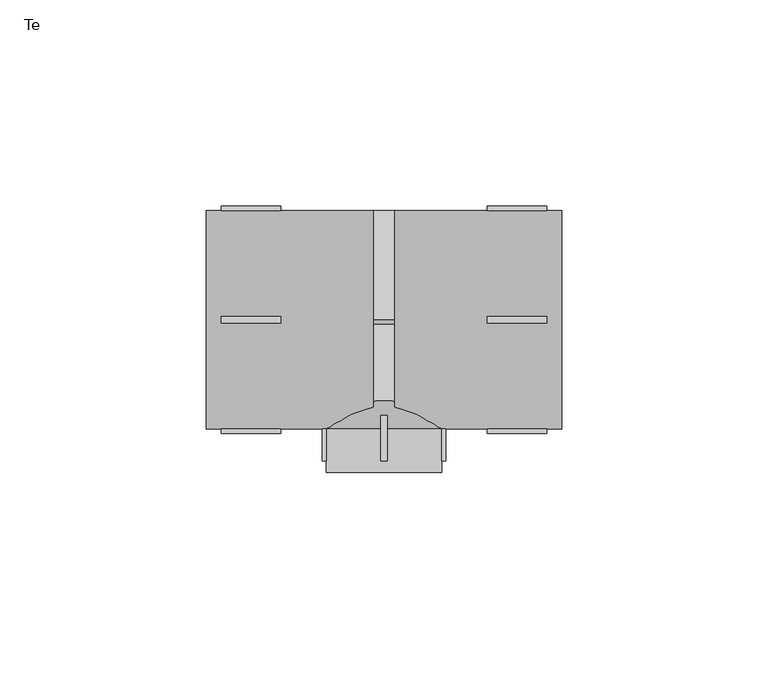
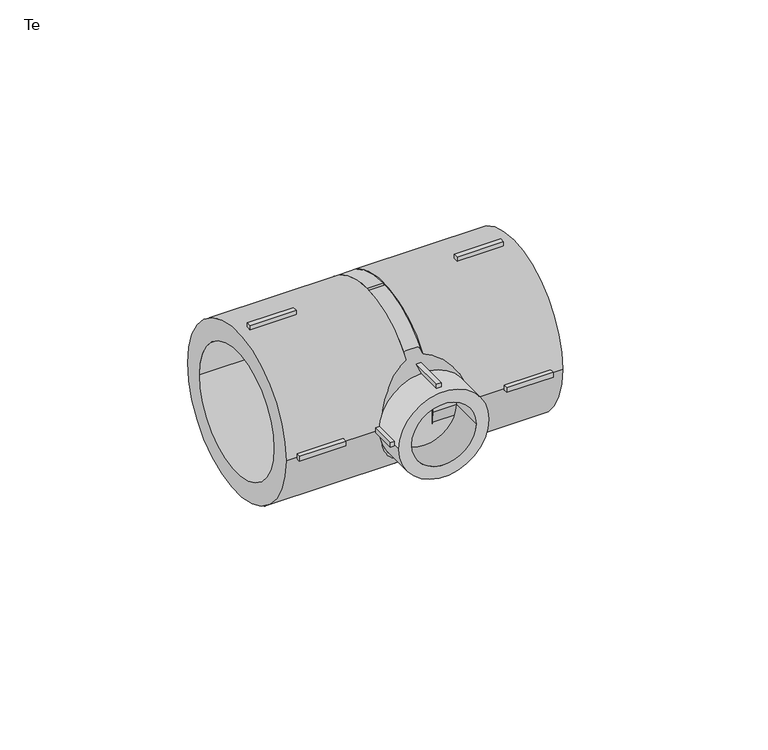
"""IFC4 building model written with IfcOpenShell, lengths in millimetres: pipe fitting geometry, EGB_VASEN_ PPR_Te WXR300_Te reducida WXR310 : Te."""

import ifcopenshell
import ifcopenshell.guid

model = None  # the IFC model being written
_history = None  # IfcOwnerHistory: only IFC2X3 demands one
_inside = {}  # id of a spatial element -> (the spatial element, [elements in it])
_under = {}  # id of a project, library or spatial element -> (it, [spatial elements below it])
_declared = {}  # id of a project -> (the project, [libraries it declares])
_typed = {}  # id of a type object -> (the type object, [elements of that type])
_made_of = {}  # id of a material, layer set ... -> (it, [elements and type objects made of it])


def new_model(schema):
    """Start an empty IFC model of exactly this schema.

    Asked for "IFC4X3", IfcOpenShell would pick the latest addendum, in which some entities
    have other attributes; the version numbers below select the first issue.
    IFC2X3 requires an IfcOwnerHistory on every rooted entity: one is made here for all.
    """
    global model, _history
    if schema == "IFC4X3":
        model = ifcopenshell.file(schema_version=(4, 3, 0, 0))
    else:
        model = ifcopenshell.file(schema=schema)
    _inside.clear()
    _under.clear()
    _declared.clear()
    _typed.clear()
    _made_of.clear()
    _history = None
    if model.schema == "IFC2X3":
        org = make("IfcOrganization", Name="unknown")
        user = make(
            "IfcPersonAndOrganization",
            ThePerson=make("IfcPerson", FamilyName="unknown"),
            TheOrganization=org,
        )
        app = make(
            "IfcApplication",
            ApplicationDeveloper=org,
            Version="unknown",
            ApplicationFullName="unknown",
            ApplicationIdentifier="unknown",
        )
        _history = make(
            "IfcOwnerHistory",
            OwningUser=user,
            OwningApplication=app,
            ChangeAction="ADDED",
            CreationDate=0,
        )
    return model


def make(cls, **values):
    """One entity of the class cls with the attributes given. An attribute that is None is left unset."""
    return model.create_entity(
        cls, **{name: value for name, value in values.items() if value is not None}
    )


def rooted(cls, **values):
    """An entity with a GlobalId (a new one), such as an element, a storey or a relation."""
    return make(cls, GlobalId=ifcopenshell.guid.new(), OwnerHistory=_history, **values)


def si_unit(unit_type, name, prefix=None):
    """IfcSIUnit, for example si_unit("LENGTHUNIT", "METRE", prefix="MILLI")."""
    return make("IfcSIUnit", UnitType=unit_type, Prefix=prefix, Name=name)


def assignment(units):
    """IfcUnitAssignment: the units of a project."""
    return None if units is None else make("IfcUnitAssignment", Units=units)


def point(xyz):
    """IfcCartesianPoint."""
    return None if xyz is None else make("IfcCartesianPoint", Coordinates=xyz)


def direction(xyz):
    """IfcDirection."""
    return None if xyz is None else make("IfcDirection", DirectionRatios=xyz)


def frame(location, z_axis=None, x_axis=None):
    """IfcAxis2Placement3D, a coordinate frame: its origin and axes. An axis left out is left unset."""
    return make(
        "IfcAxis2Placement3D",
        Location=point(location),
        Axis=direction(z_axis),
        RefDirection=direction(x_axis),
    )


def frame_2d(location, x_axis=None):
    """IfcAxis2Placement2D, a coordinate frame in the plane: its origin and x axis."""
    return make(
        "IfcAxis2Placement2D", Location=point(location), RefDirection=direction(x_axis)
    )


def origin():
    """The frame at (0, 0, 0) with its axes left unset."""
    return frame((0.0, 0.0, 0.0))


def origin_2d():
    """The frame at (0, 0) in the plane with its x axis left unset."""
    return frame_2d((0.0, 0.0))


def place(relative_to, where):
    """IfcLocalPlacement: puts the frame where relative to a parent placement (None: the world)."""
    return make(
        "IfcLocalPlacement", PlacementRelTo=relative_to, RelativePlacement=where
    )


def context(
    kind, dimensions, precision=None, world=None, true_north=None, identifier=None
):
    """IfcGeometricRepresentationContext, for example the 3D "Model" context."""
    return make(
        "IfcGeometricRepresentationContext",
        ContextIdentifier=identifier,
        ContextType=kind,
        CoordinateSpaceDimension=dimensions,
        Precision=precision,
        WorldCoordinateSystem=world,
        TrueNorth=true_north,
    )


def project(units=None, contexts=None):
    """IfcProject with its units and contexts."""
    return rooted(
        "IfcProject",
        Name="project",
        RepresentationContexts=contexts,
        UnitsInContext=assignment(units),
    )


def spatial(cls, under=None, at=None, **own):
    """A site, building, storey or space (cls), placed at a placement, below another one or the project."""
    s = rooted(cls, ObjectPlacement=at, **own)
    if under is not None:
        _under.setdefault(under.id(), (under, []))[1].append(s)
    return s


def polyline(points):
    """IfcPolyline through the points."""
    return make("IfcPolyline", Points=[point(p) for p in points])


def circle_curve(where, radius):
    """IfcCircle in the frame where."""
    return make("IfcCircle", Position=where, Radius=radius)


def trimmed(basis, trim1, trim2, sense, master):
    """IfcTrimmedCurve: the piece of a basis curve between two trims."""
    return make(
        "IfcTrimmedCurve",
        BasisCurve=basis,
        Trim1=trim1,
        Trim2=trim2,
        SenseAgreement=sense,
        MasterRepresentation=master,
    )


def segment(curve, same_sense, transition):
    """IfcCompositeCurveSegment."""
    return make(
        "IfcCompositeCurveSegment",
        Transition=transition,
        SameSense=same_sense,
        ParentCurve=curve,
    )


def composite_curve(segments, self_intersect=None):
    """IfcCompositeCurve: segments joined end to end."""
    return make("IfcCompositeCurve", Segments=segments, SelfIntersect=self_intersect)


def outline(outer, holes=None, kind="AREA"):
    """IfcArbitraryClosedProfileDef: a profile drawn as a closed curve; with holes, ...WithVoids."""
    if holes is None:
        return make("IfcArbitraryClosedProfileDef", ProfileType=kind, OuterCurve=outer)
    return make(
        "IfcArbitraryProfileDefWithVoids",
        ProfileType=kind,
        OuterCurve=outer,
        InnerCurves=holes,
    )


def extrude(swept, where, along, depth):
    """IfcExtrudedAreaSolid: the profile swept, set in the frame where, extruded along a direction by depth."""
    return make(
        "IfcExtrudedAreaSolid",
        SweptArea=swept,
        Position=where,
        ExtrudedDirection=direction(along),
        Depth=depth,
    )


def shape(context_of_items, identifier, shape_type, items):
    """IfcShapeRepresentation: the items that make up one representation, for example the "Body"."""
    return make(
        "IfcShapeRepresentation",
        ContextOfItems=context_of_items,
        RepresentationIdentifier=identifier,
        RepresentationType=shape_type,
        Items=items,
    )


def source(mapping_origin, context_of_items, identifier, shape_type, items):
    """IfcRepresentationMap: a shape defined once, which mapped items show again and again."""
    return make(
        "IfcRepresentationMap",
        MappingOrigin=mapping_origin,
        MappedRepresentation=shape(context_of_items, identifier, shape_type, items),
    )


def transform(
    local_origin,
    x_axis=None,
    y_axis=None,
    z_axis=None,
    scale=None,
    scale2=None,
    scale3=None,
    uniform=True,
):
    """IfcCartesianTransformationOperator3D, or its non-uniform kind. x_axis, y_axis, z_axis: its Axis1, 2, 3."""
    if uniform:
        return make(
            "IfcCartesianTransformationOperator3D",
            Axis1=direction(x_axis),
            Axis2=direction(y_axis),
            LocalOrigin=point(local_origin),
            Scale=scale,
            Axis3=direction(z_axis),
        )
    return make(
        "IfcCartesianTransformationOperator3DnonUniform",
        Axis1=direction(x_axis),
        Axis2=direction(y_axis),
        LocalOrigin=point(local_origin),
        Scale=scale,
        Axis3=direction(z_axis),
        Scale2=scale2,
        Scale3=scale3,
    )


def mapped(mapping_source, mapping_target):
    """IfcMappedItem: shows the shape of a source again, moved by a transform."""
    return make(
        "IfcMappedItem", MappingSource=mapping_source, MappingTarget=mapping_target
    )


def made_of(thing, what):
    """Note that an element or type object is made of a material, layer set ...; save() writes the relation."""
    if what is not None:
        _made_of.setdefault(what.id(), (what, []))[1].append(thing)
    return thing


def element(
    cls,
    number,
    at=None,
    inside=None,
    cuts=None,
    type_object=None,
    material=None,
    context=None,
    identifier="Body",
    shape_type=None,
    held_by="IfcProductDefinitionShape",
    body=None,
    shapes=None,
    **own,
):
    """One element of the class cls, such as IfcWall. Its Tag is "e" and its number.

    at: its placement. inside: the storey or other place that contains it. cuts: it is an
    opening in that element (IfcRelVoidsElement). A single representation is given by context,
    identifier, shape_type and body (its items); several are given by shapes. held_by: the class
    of the entity that holds the representations. save() writes the other relations.
    """
    e = rooted(cls, Tag="e%d" % number, ObjectPlacement=at, **own)
    if body is not None:
        shapes = [shape(context, identifier, shape_type, body)]
    if shapes is not None:
        e.Representation = make(held_by, Representations=shapes)
    if inside is not None:
        _inside.setdefault(inside.id(), (inside, []))[1].append(e)
    if cuts is not None:
        rooted(
            "IfcRelVoidsElement", RelatingBuildingElement=cuts, RelatedOpeningElement=e
        )
    if type_object is not None:
        _typed.setdefault(type_object.id(), (type_object, []))[1].append(e)
    return made_of(e, material)


def aggregate(whole, parts):
    """IfcRelAggregates: a whole, such as a stair, and the parts it consists of."""
    return rooted("IfcRelAggregates", RelatingObject=whole, RelatedObjects=parts)


def save(model, path):
    """Write the relations noted so far, then the file.

    IfcRelAggregates (storeys below a building ...), IfcRelContainedInSpatialStructure (elements
    in a storey), IfcRelDefinesByType, IfcRelAssociatesMaterial and IfcRelDeclares: one each for
    every whole, place, type object, material and project.
    """
    for whole, parts in _under.values():
        aggregate(whole, parts)
    for where, things in _inside.values():
        rooted(
            "IfcRelContainedInSpatialStructure",
            RelatedElements=things,
            RelatingStructure=where,
        )
    for kind, things in _typed.values():
        rooted("IfcRelDefinesByType", RelatedObjects=things, RelatingType=kind)
    for what, things in _made_of.values():
        rooted("IfcRelAssociatesMaterial", RelatedObjects=things, RelatingMaterial=what)
    for by, libraries in _declared.values():
        rooted("IfcRelDeclares", RelatingContext=by, RelatedDefinitions=libraries)
    model.write(path)


def plane_surface(at):
    """IfcPlane: the flat surface through the origin of the frame at, square to its z axis."""
    return make("IfcPlane", Position=at)


def revolved_surface(curve, axis_point, axis_direction):
    """IfcSurfaceOfRevolution: the curve turned about the line through axis_point along axis_direction."""
    return make(
        "IfcSurfaceOfRevolution",
        SweptCurve=make("IfcArbitraryOpenProfileDef", ProfileType="CURVE", Curve=curve),
        AxisPosition=make("IfcAxis1Placement", Location=point(axis_point), Axis=direction(axis_direction)),
    )


def advanced_brep(points, edges, surfaces, faces):
    """IfcAdvancedBrep: a solid bounded by faces that lie on surfaces and meet in shared edges.

    An edge is (start, end): straight between two places in points (the first is 0);
    or (start, end, curve); or (start, end, curve, False) where it runs against its curve.
    A face is (place in surfaces, loops), or (place, loops, False) where it looks against
    its surface's normal. A loop lists edges by number (the first is 1), with a minus sign
    where the edge is run from its end to its start. The first loop is the outer one.
    """
    corners = [point(p) for p in points]
    vertices = [make("IfcVertexPoint", VertexGeometry=c) for c in corners]
    made = []
    for start, end, *more in edges:
        made.append(
            make(
                "IfcEdgeCurve",
                EdgeStart=vertices[start],
                EdgeEnd=vertices[end],
                EdgeGeometry=more[0] if more else make("IfcPolyline", Points=[corners[start], corners[end]]),
                SameSense=more[1] if len(more) > 1 else True,
            )
        )
    hull = []
    for where, loops, *sense in faces:
        bounds = []
        for j, loop in enumerate(loops):
            ring = [make("IfcOrientedEdge", EdgeElement=made[abs(k) - 1], Orientation=k > 0) for k in loop]
            bounds.append(
                make(
                    "IfcFaceOuterBound" if j == 0 else "IfcFaceBound",
                    Bound=make("IfcEdgeLoop", EdgeList=ring),
                    Orientation=True,
                )
            )
        hull.append(make("IfcAdvancedFace", Bounds=bounds, FaceSurface=surfaces[where], SameSense=sense[0] if sense else True))
    return make("IfcAdvancedBrep", Outer=make("IfcClosedShell", CfsFaces=hull))


def te_f539bd72(model_context):
    return source(origin(), model_context, "Body", "SolidModel", [
        extrude(outline(polyline([(-0.75, -23.0), (0.75, -23.0), (0.75, -34.2), (-0.75, -34.2), (-0.75, -23.0)])), frame((0.0, 0.0, 13.0), z_axis=(0.0, 0.0, 1.0), x_axis=(1.0, 0.0, 0.0)), (0.0, 0.0, 1.0), 2.0),
        extrude(outline(polyline([(-0.75, -23.0), (0.75, -23.0), (0.75, -34.2), (-0.75, -34.2), (-0.75, -23.0)])), frame((0.0, 0.0, -15.0), z_axis=(0.0, 0.0, 1.0), x_axis=(1.0, 0.0, 0.0)), (0.0, 0.0, 1.0), 2.0),
        extrude(outline(polyline([(13.0, -23.0), (15.0, -23.0), (15.0, -34.2), (13.0, -34.2), (13.0, -23.0)])), frame((0.0, 0.0, -0.75), z_axis=(0.0, 0.0, 1.0), x_axis=(1.0, 0.0, 0.0)), (0.0, 0.0, 1.0), 1.5),
        extrude(outline(polyline([(-15.0, -23.0), (-13.0, -23.0), (-13.0, -34.2), (-15.0, -34.2), (-15.0, -23.0)])), frame((0.0, 0.0, -0.75), z_axis=(0.0, 0.0, 1.0), x_axis=(1.0, 0.0, 0.0)), (0.0, 0.0, 1.0), 1.5),
        extrude(outline(polyline([(25.0, -0.75), (25.0, 0.75), (39.4, 0.75), (39.4, -0.75), (25.0, -0.75)])), frame((0.0, 0.0, 25.5), z_axis=(0.0, 0.0, 1.0), x_axis=(1.0, 0.0, 0.0)), (0.0, 0.0, 1.0), 2.0),
        extrude(outline(polyline([(25.0, -0.75), (25.0, 0.75), (39.4, 0.75), (39.4, -0.75), (25.0, -0.75)])), frame((0.0, 0.0, -27.5), z_axis=(0.0, 0.0, 1.0), x_axis=(1.0, 0.0, 0.0)), (0.0, 0.0, 1.0), 2.0),
        extrude(outline(polyline([(25.0, 25.5), (25.0, 27.5), (39.4, 27.5), (39.4, 25.5), (25.0, 25.5)])), frame((0.0, 0.0, -0.75), z_axis=(0.0, 0.0, 1.0), x_axis=(1.0, 0.0, 0.0)), (0.0, 0.0, 1.0), 1.5),
        extrude(outline(polyline([(25.0, -27.5), (25.0, -25.5), (39.4, -25.5), (39.4, -27.5), (25.0, -27.5)])), frame((0.0, 0.0, -0.75), z_axis=(0.0, 0.0, 1.0), x_axis=(1.0, 0.0, 0.0)), (0.0, 0.0, 1.0), 1.5),
        extrude(outline(polyline([(-25.0, 0.75), (-25.0, -0.75), (-39.4, -0.75), (-39.4, 0.75), (-25.0, 0.75)])), frame((0.0, 0.0, 25.5), z_axis=(0.0, 0.0, 1.0), x_axis=(1.0, 0.0, 0.0)), (0.0, 0.0, 1.0), 2.0),
        extrude(outline(polyline([(-25.0, 0.75), (-25.0, -0.75), (-39.4, -0.75), (-39.4, 0.75), (-25.0, 0.75)])), frame((0.0, 0.0, -27.5), z_axis=(0.0, 0.0, 1.0), x_axis=(1.0, 0.0, 0.0)), (0.0, 0.0, 1.0), 2.0),
        extrude(outline(polyline([(-25.0, 27.5), (-25.0, 25.5), (-39.4, 25.5), (-39.4, 27.5), (-25.0, 27.5)])), frame((0.0, 0.0, -0.75), z_axis=(0.0, 0.0, 1.0), x_axis=(1.0, 0.0, 0.0)), (0.0, 0.0, 1.0), 1.5),
        extrude(outline(polyline([(-25.0, -25.5), (-25.0, -27.5), (-39.4, -27.5), (-39.4, -25.5), (-25.0, -25.5)])), frame((0.0, 0.0, -0.75), z_axis=(0.0, 0.0, 1.0), x_axis=(1.0, 0.0, 0.0)), (0.0, 0.0, 1.0), 1.5),
        extrude(outline(composite_curve([segment(trimmed(circle_curve(origin_2d(), 14.0), [point((0.0, 14.0))], [point((0.0, -14.0))], False, "CARTESIAN"), True, "CONTINUOUS"), segment(trimmed(circle_curve(origin_2d(), 14.0), [point((0.0, -14.0))], [point((0.0, 14.0))], False, "CARTESIAN"), True, "CONTINUOUS")], self_intersect=False), holes=[composite_curve([segment(trimmed(circle_curve(origin_2d(), 10.0), [point((0.0, 10.0))], [point((0.0, -10.0))], True, "CARTESIAN"), True, "CONTINUOUS"), segment(trimmed(circle_curve(origin_2d(), 10.0), [point((0.0, -10.0))], [point((0.0, 10.0))], True, "CARTESIAN"), True, "CONTINUOUS")], self_intersect=False)]), frame((0.0, -37.0, 0.0), z_axis=(0.0, 1.0, 0.0), x_axis=(0.0, 0.0, 1.0)), (0.0, 0.0, 1.0), 10.5),
        extrude(outline(composite_curve([segment(trimmed(circle_curve(origin_2d(), 26.5), [point((-26.5, 0.0))], [point((26.5, 0.0))], False, "CARTESIAN"), True, "CONTINUOUS"), segment(trimmed(circle_curve(origin_2d(), 26.5), [point((26.5, 0.0))], [point((-26.5, 0.0))], False, "CARTESIAN"), True, "CONTINUOUS")], self_intersect=False), holes=[composite_curve([segment(trimmed(circle_curve(origin_2d(), 20.0), [point((-20.0, 0.0))], [point((20.0, 0.0))], True, "CARTESIAN"), True, "CONTINUOUS"), segment(trimmed(circle_curve(origin_2d(), 20.0), [point((20.0, 0.0))], [point((-20.0, 0.0))], True, "CARTESIAN"), True, "CONTINUOUS")], self_intersect=False)]), frame((2.64, 0.0, 0.0), z_axis=(1.0, 0.0, 0.0), x_axis=(0.0, 1.0, 0.0)), (0.0, 0.0, 1.0), 40.36),
        extrude(outline(composite_curve([segment(trimmed(circle_curve(origin_2d(), 26.5), [point((-26.5, 0.0))], [point((26.5, 0.0))], False, "CARTESIAN"), True, "CONTINUOUS"), segment(trimmed(circle_curve(origin_2d(), 26.5), [point((26.5, 0.0))], [point((-26.5, 0.0))], False, "CARTESIAN"), True, "CONTINUOUS")], self_intersect=False), holes=[composite_curve([segment(trimmed(circle_curve(origin_2d(), 20.0), [point((-20.0, 0.0))], [point((20.0, 0.0))], True, "CARTESIAN"), True, "CONTINUOUS"), segment(trimmed(circle_curve(origin_2d(), 20.0), [point((20.0, 0.0))], [point((-20.0, 0.0))], True, "CARTESIAN"), True, "CONTINUOUS")], self_intersect=False)]), frame((-43.0, 0.0, 0.0), z_axis=(1.0, 0.0, 0.0), x_axis=(0.0, 1.0, 0.0)), (0.0, 0.0, 1.0), 40.36),
        advanced_brep(
        [(26.5, 0.0, 0.0), (-26.5, 0.0, 0.0), (14.0, -26.5, 0.0), (-14.0, -26.5, 0.0)],
        [
            (0, 1, circle_curve(frame((0.0, 0.0, 0.0), z_axis=(0.0, 1.0, 0.0), x_axis=(1.0, 0.0, 0.0)), 26.5)),
            (1, 0, circle_curve(frame((0.0, 0.0, 0.0), z_axis=(0.0, 1.0, 0.0), x_axis=(-1.0, 0.0, 0.0)), 26.5)),
            (2, 3, circle_curve(frame((0.0, -26.5, 0.0), z_axis=(0.0, -1.0, 0.0), x_axis=(-1.0, 0.0, 0.0)), 14.0)),
            (3, 2, circle_curve(frame((0.0, -26.5, 0.0), z_axis=(0.0, -1.0, 0.0), x_axis=(1.0, 0.0, 0.0)), 14.0)),
            (3, 1),
            (0, 2),
        ],
        [
            plane_surface(frame((0.0, 0.0, 0.0), z_axis=(0.0, 1.0, 0.0), x_axis=(0.0, 0.0, -1.0))),
            plane_surface(frame((0.0, -26.5, 0.0), z_axis=(0.0, -1.0, 0.0), x_axis=(0.0, 0.0, -1.0))),
            revolved_surface(polyline([(-14.0, -26.5, 0.0), (-26.5, 0.0, 0.0)]), (0.0, -56.18, 0.0), (0.0, 1.0, 0.0)),
            revolved_surface(polyline([(14.0, -26.5, 0.0), (26.5, 0.0, 0.0)]), (0.0, -56.18, 0.0), (0.0, 1.0, 0.0)),
        ],
        [
            (0, [[1, 2]]),
            (1, [[3, 4]]),
            (2, [[-4, 5, -1, 6]]),
            (3, [[-3, -6, -2, -5]]),
        ],
    ),
        extrude(outline(composite_curve([segment(trimmed(circle_curve(origin_2d(), 26.5), [point((-26.5, 0.0))], [point((26.5, 0.0))], False, "CARTESIAN"), True, "CONTINUOUS"), segment(trimmed(circle_curve(origin_2d(), 26.5), [point((26.5, 0.0))], [point((-26.5, 0.0))], False, "CARTESIAN"), True, "CONTINUOUS")], self_intersect=False)), frame((-2.64, 0.0, 0.0), z_axis=(1.0, 0.0, 0.0), x_axis=(0.0, 1.0, 0.0)), (0.0, 0.0, 1.0), 5.28),
    ])


if __name__ == "__main__":
    model = new_model("IFC4")
    model_context = context("Model", 3, world=origin())
    ifc_project = project(units=[si_unit("LENGTHUNIT", "METRE", prefix="MILLI")], contexts=[model_context])
    site = spatial("IfcSite", under=ifc_project)
    building = spatial("IfcBuilding", under=site)
    placement = place(None, origin())
    te_shape = te_f539bd72(model_context)
    element("IfcPipeFitting", 1, ObjectType="EGB_VASEN_ PPR_Te WXR300_Te reducida WXR310 : Te", at=placement, inside=building, context=model_context, shape_type="MappedRepresentation", body=[
        mapped(te_shape, transform((0.0, 0.0, 0.0), x_axis=(1.0, 0.0, 0.0), y_axis=(0.0, 1.0, 0.0), z_axis=(0.0, 0.0, 1.0))),
    ])
    save(model, "model.ifc")
